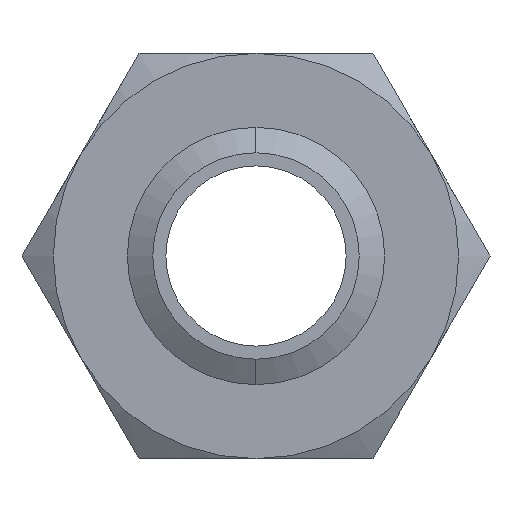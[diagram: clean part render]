
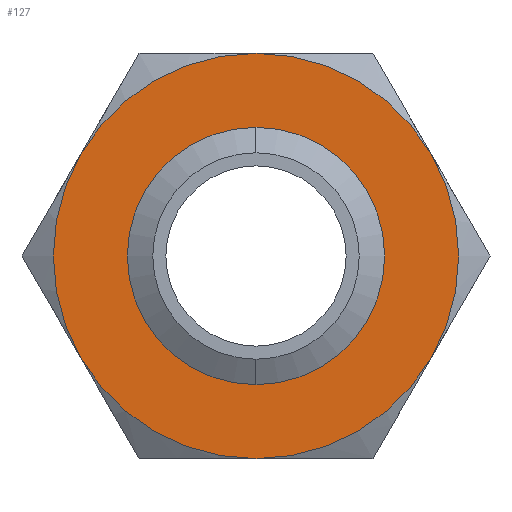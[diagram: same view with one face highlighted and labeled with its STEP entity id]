
A CAD part, front view. The second image highlights one B-rep face of the part: STEP entity #127.
In plain terms, the highlighted planar face has unit normal (0, -1, 0).
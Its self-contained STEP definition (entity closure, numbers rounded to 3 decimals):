
#74 = EDGE_LOOP ( 'NONE', ( #174, #182 ) ) ;
#111 = EDGE_CURVE ( 'NONE', #112, #126, #422, .T. ) ;
#112 = VERTEX_POINT ( 'NONE', #483 ) ;
#113 = ORIENTED_EDGE ( 'NONE', *, *, #114, .F. ) ;
#114 = EDGE_CURVE ( 'NONE', #115, #120, #482, .T. ) ;
#115 = VERTEX_POINT ( 'NONE', #477 ) ;
#117 = EDGE_LOOP ( 'NONE', ( #128, #124, #194, #118, #113, #122 ) ) ;
#118 = ORIENTED_EDGE ( 'NONE', *, *, #119, .F. ) ;
#119 = EDGE_CURVE ( 'NONE', #120, #112, #472, .T. ) ;
#120 = VERTEX_POINT ( 'NONE', #467 ) ;
#122 = ORIENTED_EDGE ( 'NONE', *, *, #123, .F. ) ;
#123 = EDGE_CURVE ( 'NONE', #129, #115, #464, .T. ) ;
#124 = ORIENTED_EDGE ( 'NONE', *, *, #125, .F. ) ;
#125 = EDGE_CURVE ( 'NONE', #126, #193, #459, .T. ) ;
#126 = VERTEX_POINT ( 'NONE', #455 ) ;
#127 = ADVANCED_FACE ( 'NONE', ( #454, #453 ), #2039, .F. ) ;
#128 = ORIENTED_EDGE ( 'NONE', *, *, #192, .F. ) ;
#129 = VERTEX_POINT ( 'NONE', #514 ) ;
#174 = ORIENTED_EDGE ( 'NONE', *, *, #1392, .F. ) ;
#182 = ORIENTED_EDGE ( 'NONE', *, *, #183, .F. ) ;
#183 = EDGE_CURVE ( 'NONE', #1421, #1387, #591, .T. ) ;
#192 = EDGE_CURVE ( 'NONE', #193, #129, #634, .T. ) ;
#193 = VERTEX_POINT ( 'NONE', #630 ) ;
#194 = ORIENTED_EDGE ( 'NONE', *, *, #111, .F. ) ;
#419 = DIRECTION ( 'NONE',  ( 0., 1., 0. ) ) ;
#420 = CARTESIAN_POINT ( 'NONE',  ( 0., 0., 0. ) ) ;
#421 = AXIS2_PLACEMENT_3D ( 'NONE', #420, #419, #484 ) ;
#422 = CIRCLE ( 'NONE', #421, 25. ) ;
#453 = FACE_BOUND ( 'NONE', #74, .T. ) ;
#454 = FACE_OUTER_BOUND ( 'NONE', #117, .T. ) ;
#455 = CARTESIAN_POINT ( 'NONE',  ( -21.651, 0., 12.5 ) ) ;
#456 = DIRECTION ( 'NONE',  ( 0., 0., 1. ) ) ;
#457 = DIRECTION ( 'NONE',  ( 0., 1., 0. ) ) ;
#458 = AXIS2_PLACEMENT_3D ( 'NONE', #466, #457, #456 ) ;
#459 = CIRCLE ( 'NONE', #458, 25. ) ;
#460 = DIRECTION ( 'NONE',  ( 0., 0., 1. ) ) ;
#461 = DIRECTION ( 'NONE',  ( 0., 1., 0. ) ) ;
#462 = CARTESIAN_POINT ( 'NONE',  ( 0., 0., 0. ) ) ;
#463 = AXIS2_PLACEMENT_3D ( 'NONE', #462, #461, #460 ) ;
#464 = CIRCLE ( 'NONE', #463, 25. ) ;
#466 = CARTESIAN_POINT ( 'NONE',  ( 0., 0., 0. ) ) ;
#467 = CARTESIAN_POINT ( 'NONE',  ( 0., 0., -25. ) ) ;
#468 = DIRECTION ( 'NONE',  ( 0., 0., 1. ) ) ;
#469 = DIRECTION ( 'NONE',  ( 0., 1., 0. ) ) ;
#470 = CARTESIAN_POINT ( 'NONE',  ( 0., 0., 0. ) ) ;
#471 = AXIS2_PLACEMENT_3D ( 'NONE', #470, #469, #468 ) ;
#472 = CIRCLE ( 'NONE', #471, 25. ) ;
#477 = CARTESIAN_POINT ( 'NONE',  ( 21.651, 0., -12.5 ) ) ;
#478 = DIRECTION ( 'NONE',  ( 0., 0., 1. ) ) ;
#479 = DIRECTION ( 'NONE',  ( 0., 1., 0. ) ) ;
#480 = CARTESIAN_POINT ( 'NONE',  ( 0., 0., 0. ) ) ;
#481 = AXIS2_PLACEMENT_3D ( 'NONE', #480, #479, #478 ) ;
#482 = CIRCLE ( 'NONE', #481, 25. ) ;
#483 = CARTESIAN_POINT ( 'NONE',  ( -21.651, 0., -12.5 ) ) ;
#484 = DIRECTION ( 'NONE',  ( 0., 0., 1. ) ) ;
#514 = CARTESIAN_POINT ( 'NONE',  ( 21.651, 0., 12.5 ) ) ;
#579 = CARTESIAN_POINT ( 'NONE',  ( 0., 0., 0. ) ) ;
#587 = DIRECTION ( 'NONE',  ( 0., 0., -1. ) ) ;
#588 = DIRECTION ( 'NONE',  ( 0., -1., 0. ) ) ;
#589 = CARTESIAN_POINT ( 'NONE',  ( 0., 0., 0. ) ) ;
#590 = AXIS2_PLACEMENT_3D ( 'NONE', #589, #588, #587 ) ;
#591 = CIRCLE ( 'NONE', #590, 12.731 ) ;
#630 = CARTESIAN_POINT ( 'NONE',  ( 0., 0., 25. ) ) ;
#631 = DIRECTION ( 'NONE',  ( 0., 0., 1. ) ) ;
#632 = DIRECTION ( 'NONE',  ( 0., 1., 0. ) ) ;
#633 = AXIS2_PLACEMENT_3D ( 'NONE', #579, #632, #631 ) ;
#634 = CIRCLE ( 'NONE', #633, 25. ) ;
#768 = CARTESIAN_POINT ( 'NONE',  ( 0., 0., 12.731 ) ) ;
#769 = DIRECTION ( 'NONE',  ( 0., 0., -1. ) ) ;
#770 = DIRECTION ( 'NONE',  ( 0., -1., 0. ) ) ;
#771 = CARTESIAN_POINT ( 'NONE',  ( 0., 0., 0. ) ) ;
#772 = AXIS2_PLACEMENT_3D ( 'NONE', #771, #770, #769 ) ;
#773 = CIRCLE ( 'NONE', #772, 12.731 ) ;
#774 = CARTESIAN_POINT ( 'NONE',  ( 0., 0., -12.731 ) ) ;
#1387 = VERTEX_POINT ( 'NONE', #774 ) ;
#1392 = EDGE_CURVE ( 'NONE', #1387, #1421, #773, .T. ) ;
#1421 = VERTEX_POINT ( 'NONE', #768 ) ;
#2039 = PLANE ( 'NONE',  #2040 ) ;
#2040 = AXIS2_PLACEMENT_3D ( 'NONE', #2042, #2043, #2041 ) ;
#2041 = DIRECTION ( 'NONE',  ( 0., 0., 1. ) ) ;
#2042 = CARTESIAN_POINT ( 'NONE',  ( 14.434, 0., -25. ) ) ;
#2043 = DIRECTION ( 'NONE',  ( 0., 1., 0. ) ) ;
